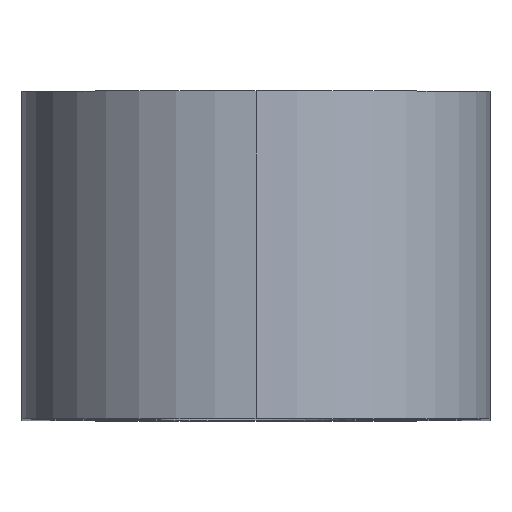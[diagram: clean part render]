
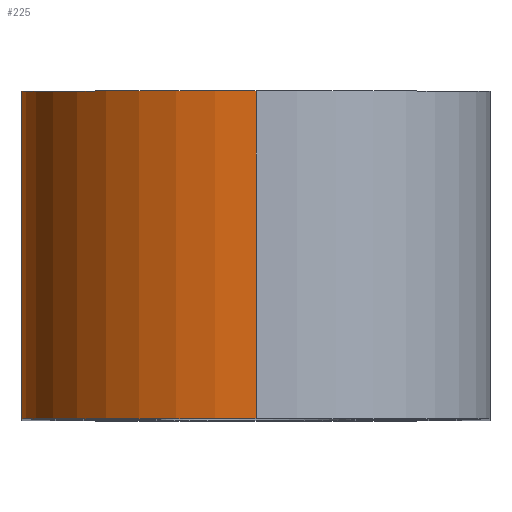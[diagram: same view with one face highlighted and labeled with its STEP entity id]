
A CAD part, top view. The second image highlights one B-rep face of the part: STEP entity #225.
In plain terms, the highlighted cylindrical face has radius 10 mm (diameter 20 mm), a partial arc.
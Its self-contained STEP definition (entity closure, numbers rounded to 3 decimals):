
#32 = PLANE('',#33);
#33 = AXIS2_PLACEMENT_3D('',#34,#35,#36);
#34 = CARTESIAN_POINT('',(-258.5,-85.,24.));
#35 = DIRECTION('',(-1.,0.,0.));
#36 = DIRECTION('',(0.,0.,1.));
#57 = VERTEX_POINT('',#58);
#58 = CARTESIAN_POINT('',(-258.5,-99.,68.375));
#84 = EDGE_CURVE('',#85,#57,#87,.T.);
#85 = VERTEX_POINT('',#86);
#86 = CARTESIAN_POINT('',(-258.5,-85.,68.375));
#87 = SURFACE_CURVE('',#88,(#92,#99),.PCURVE_S1.);
#88 = LINE('',#89,#90);
#89 = CARTESIAN_POINT('',(-258.5,-85.,68.375));
#90 = VECTOR('',#91,1.);
#91 = DIRECTION('',(0.,-1.,0.));
#92 = PCURVE('',#32,#93);
#93 = DEFINITIONAL_REPRESENTATION('',(#94),#98);
#94 = LINE('',#95,#96);
#95 = CARTESIAN_POINT('',(44.375,0.));
#96 = VECTOR('',#97,1.);
#97 = DIRECTION('',(0.,-1.));
#98 = ( GEOMETRIC_REPRESENTATION_CONTEXT(2) 
PARAMETRIC_REPRESENTATION_CONTEXT() REPRESENTATION_CONTEXT('2D SPACE',''
  ) );
#99 = PCURVE('',#100,#105);
#100 = CYLINDRICAL_SURFACE('',#101,10.);
#101 = AXIS2_PLACEMENT_3D('',#102,#103,#104);
#102 = CARTESIAN_POINT('',(-248.5,-99.,68.375));
#103 = DIRECTION('',(0.,1.,0.));
#104 = DIRECTION('',(0.,-0.,1.));
#105 = DEFINITIONAL_REPRESENTATION('',(#106),#110);
#106 = LINE('',#107,#108);
#107 = CARTESIAN_POINT('',(4.712,14.));
#108 = VECTOR('',#109,1.);
#109 = DIRECTION('',(0.,-1.));
#110 = ( GEOMETRIC_REPRESENTATION_CONTEXT(2) 
PARAMETRIC_REPRESENTATION_CONTEXT() REPRESENTATION_CONTEXT('2D SPACE',''
  ) );
#225 = ADVANCED_FACE('',(#226),#100,.T.);
#226 = FACE_BOUND('',#227,.T.);
#227 = EDGE_LOOP('',(#228,#258,#285,#286));
#228 = ORIENTED_EDGE('',*,*,#229,.T.);
#229 = EDGE_CURVE('',#230,#232,#234,.T.);
#230 = VERTEX_POINT('',#231);
#231 = CARTESIAN_POINT('',(-248.5,-99.,78.375));
#232 = VERTEX_POINT('',#233);
#233 = CARTESIAN_POINT('',(-248.5,-85.,78.375));
#234 = SURFACE_CURVE('',#235,(#239,#246),.PCURVE_S1.);
#235 = LINE('',#236,#237);
#236 = CARTESIAN_POINT('',(-248.5,-99.,78.375));
#237 = VECTOR('',#238,1.);
#238 = DIRECTION('',(0.,1.,0.));
#239 = PCURVE('',#100,#240);
#240 = DEFINITIONAL_REPRESENTATION('',(#241),#245);
#241 = LINE('',#242,#243);
#242 = CARTESIAN_POINT('',(6.283,-0.));
#243 = VECTOR('',#244,1.);
#244 = DIRECTION('',(0.,1.));
#245 = ( GEOMETRIC_REPRESENTATION_CONTEXT(2) 
PARAMETRIC_REPRESENTATION_CONTEXT() REPRESENTATION_CONTEXT('2D SPACE',''
  ) );
#246 = PCURVE('',#247,#252);
#247 = CYLINDRICAL_SURFACE('',#248,10.);
#248 = AXIS2_PLACEMENT_3D('',#249,#250,#251);
#249 = CARTESIAN_POINT('',(-248.5,-99.,68.375));
#250 = DIRECTION('',(0.,1.,0.));
#251 = DIRECTION('',(0.,-0.,1.));
#252 = DEFINITIONAL_REPRESENTATION('',(#253),#257);
#253 = LINE('',#254,#255);
#254 = CARTESIAN_POINT('',(0.,-0.));
#255 = VECTOR('',#256,1.);
#256 = DIRECTION('',(0.,1.));
#257 = ( GEOMETRIC_REPRESENTATION_CONTEXT(2) 
PARAMETRIC_REPRESENTATION_CONTEXT() REPRESENTATION_CONTEXT('2D SPACE',''
  ) );
#258 = ORIENTED_EDGE('',*,*,#259,.F.);
#259 = EDGE_CURVE('',#85,#232,#260,.T.);
#260 = SURFACE_CURVE('',#261,(#266,#273),.PCURVE_S1.);
#261 = CIRCLE('',#262,10.);
#262 = AXIS2_PLACEMENT_3D('',#263,#264,#265);
#263 = CARTESIAN_POINT('',(-248.5,-85.,68.375));
#264 = DIRECTION('',(0.,1.,0.));
#265 = DIRECTION('',(0.,-0.,1.));
#266 = PCURVE('',#100,#267);
#267 = DEFINITIONAL_REPRESENTATION('',(#268),#272);
#268 = LINE('',#269,#270);
#269 = CARTESIAN_POINT('',(0.,14.));
#270 = VECTOR('',#271,1.);
#271 = DIRECTION('',(1.,0.));
#272 = ( GEOMETRIC_REPRESENTATION_CONTEXT(2) 
PARAMETRIC_REPRESENTATION_CONTEXT() REPRESENTATION_CONTEXT('2D SPACE',''
  ) );
#273 = PCURVE('',#274,#279);
#274 = PLANE('',#275);
#275 = AXIS2_PLACEMENT_3D('',#276,#277,#278);
#276 = CARTESIAN_POINT('',(-248.5,-85.,68.375));
#277 = DIRECTION('',(0.,1.,0.));
#278 = DIRECTION('',(0.,-0.,1.));
#279 = DEFINITIONAL_REPRESENTATION('',(#280),#284);
#280 = CIRCLE('',#281,10.);
#281 = AXIS2_PLACEMENT_2D('',#282,#283);
#282 = CARTESIAN_POINT('',(0.,0.));
#283 = DIRECTION('',(1.,0.));
#284 = ( GEOMETRIC_REPRESENTATION_CONTEXT(2) 
PARAMETRIC_REPRESENTATION_CONTEXT() REPRESENTATION_CONTEXT('2D SPACE',''
  ) );
#285 = ORIENTED_EDGE('',*,*,#84,.T.);
#286 = ORIENTED_EDGE('',*,*,#287,.T.);
#287 = EDGE_CURVE('',#57,#230,#288,.T.);
#288 = SURFACE_CURVE('',#289,(#294,#301),.PCURVE_S1.);
#289 = CIRCLE('',#290,10.);
#290 = AXIS2_PLACEMENT_3D('',#291,#292,#293);
#291 = CARTESIAN_POINT('',(-248.5,-99.,68.375));
#292 = DIRECTION('',(0.,1.,0.));
#293 = DIRECTION('',(0.,-0.,1.));
#294 = PCURVE('',#100,#295);
#295 = DEFINITIONAL_REPRESENTATION('',(#296),#300);
#296 = LINE('',#297,#298);
#297 = CARTESIAN_POINT('',(0.,0.));
#298 = VECTOR('',#299,1.);
#299 = DIRECTION('',(1.,0.));
#300 = ( GEOMETRIC_REPRESENTATION_CONTEXT(2) 
PARAMETRIC_REPRESENTATION_CONTEXT() REPRESENTATION_CONTEXT('2D SPACE',''
  ) );
#301 = PCURVE('',#302,#307);
#302 = PLANE('',#303);
#303 = AXIS2_PLACEMENT_3D('',#304,#305,#306);
#304 = CARTESIAN_POINT('',(-248.5,-99.,68.375));
#305 = DIRECTION('',(0.,1.,0.));
#306 = DIRECTION('',(0.,-0.,1.));
#307 = DEFINITIONAL_REPRESENTATION('',(#308),#312);
#308 = CIRCLE('',#309,10.);
#309 = AXIS2_PLACEMENT_2D('',#310,#311);
#310 = CARTESIAN_POINT('',(0.,0.));
#311 = DIRECTION('',(1.,0.));
#312 = ( GEOMETRIC_REPRESENTATION_CONTEXT(2) 
PARAMETRIC_REPRESENTATION_CONTEXT() REPRESENTATION_CONTEXT('2D SPACE',''
  ) );
